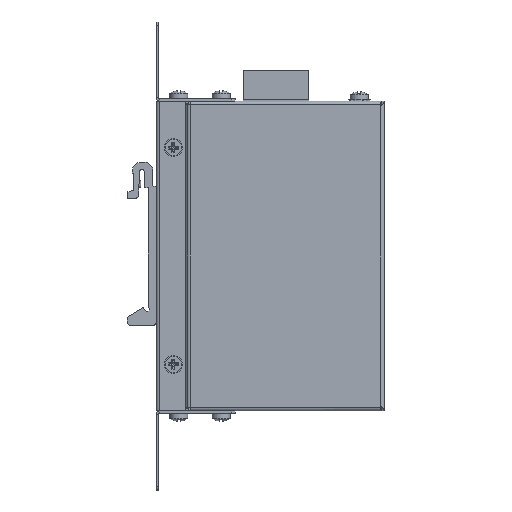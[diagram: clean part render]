
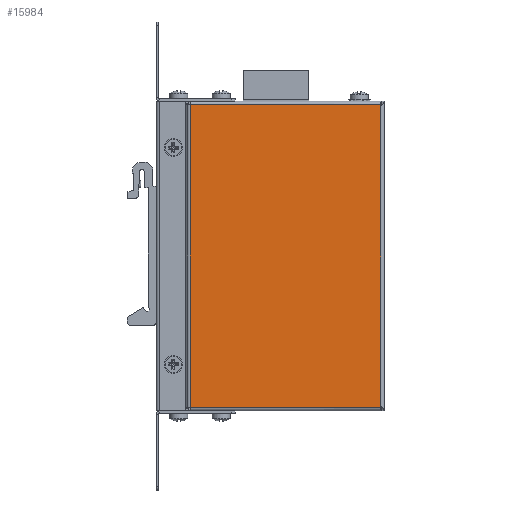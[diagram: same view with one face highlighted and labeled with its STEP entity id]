
A CAD part, left-side view. The second image highlights one B-rep face of the part: STEP entity #15984.
In plain terms, the highlighted planar face has unit normal (-1, 0, 0).
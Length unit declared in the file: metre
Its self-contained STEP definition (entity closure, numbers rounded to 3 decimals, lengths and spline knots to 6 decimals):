
#627=LINE('',#23830,#2308);
#628=LINE('',#23833,#2309);
#629=LINE('',#23835,#2310);
#630=LINE('',#23837,#2311);
#631=LINE('',#23839,#2312);
#632=LINE('',#23841,#2313);
#2308=VECTOR('',#19002,1.);
#2309=VECTOR('',#19003,1.);
#2310=VECTOR('',#19004,1.);
#2311=VECTOR('',#19005,1.);
#2312=VECTOR('',#19006,1.);
#2313=VECTOR('',#19007,1.);
#4317=ORIENTED_EDGE('',*,*,#8667,.T.);
#4318=ORIENTED_EDGE('',*,*,#8668,.T.);
#4319=ORIENTED_EDGE('',*,*,#8669,.T.);
#4320=ORIENTED_EDGE('',*,*,#8670,.T.);
#4321=ORIENTED_EDGE('',*,*,#8671,.F.);
#4322=ORIENTED_EDGE('',*,*,#8672,.F.);
#8667=EDGE_CURVE('',#10890,#10891,#627,.F.);
#8668=EDGE_CURVE('',#10891,#10892,#628,.T.);
#8669=EDGE_CURVE('',#10892,#10893,#629,.T.);
#8670=EDGE_CURVE('',#10893,#10894,#630,.T.);
#8671=EDGE_CURVE('',#10895,#10894,#631,.T.);
#8672=EDGE_CURVE('',#10890,#10895,#632,.T.);
#10890=VERTEX_POINT('',#23831);
#10891=VERTEX_POINT('',#23832);
#10892=VERTEX_POINT('',#23834);
#10893=VERTEX_POINT('',#23836);
#10894=VERTEX_POINT('',#23838);
#10895=VERTEX_POINT('',#23840);
#12894=EDGE_LOOP('',(#4317,#4318,#4319,#4320,#4321,#4322));
#14115=FACE_BOUND('',#12894,.T.);
#15294=PLANE('',#17146);
#15984=ADVANCED_FACE('',(#14115),#15294,.F.);
#17146=AXIS2_PLACEMENT_3D('',#23829,#19000,#19001);
#19000=DIRECTION('',(1.,0.,0.));
#19001=DIRECTION('',(0.,0.,-1.));
#19002=DIRECTION('',(0.,1.,0.));
#19003=DIRECTION('',(0.,-0.707,0.707));
#19004=DIRECTION('',(0.,0.,1.));
#19005=DIRECTION('',(0.,0.707,0.707));
#19006=DIRECTION('',(0.,-1.,0.));
#19007=DIRECTION('',(0.,0.,1.));
#23829=CARTESIAN_POINT('',(-0.01305,0.0342,0.030952));
#23830=CARTESIAN_POINT('',(-0.01305,0.0342,0.00105));
#23831=CARTESIAN_POINT('',(-0.01305,0.024596,0.00105));
#23832=CARTESIAN_POINT('',(-0.01305,-0.033606,0.00105));
#23833=CARTESIAN_POINT('',(-0.01305,-0.014654,-0.017902));
#23834=CARTESIAN_POINT('',(-0.01305,-0.03395,0.001394));
#23835=CARTESIAN_POINT('',(-0.01305,-0.03395,0.030952));
#23836=CARTESIAN_POINT('',(-0.01305,-0.03395,0.093606));
#23837=CARTESIAN_POINT('',(-0.01305,-0.031202,0.096354));
#23838=CARTESIAN_POINT('',(-0.01305,-0.033606,0.09395));
#23839=CARTESIAN_POINT('',(-0.01305,0.0342,0.09395));
#23840=CARTESIAN_POINT('',(-0.01305,0.024596,0.09395));
#23841=CARTESIAN_POINT('',(-0.01305,0.024596,0.030952));
